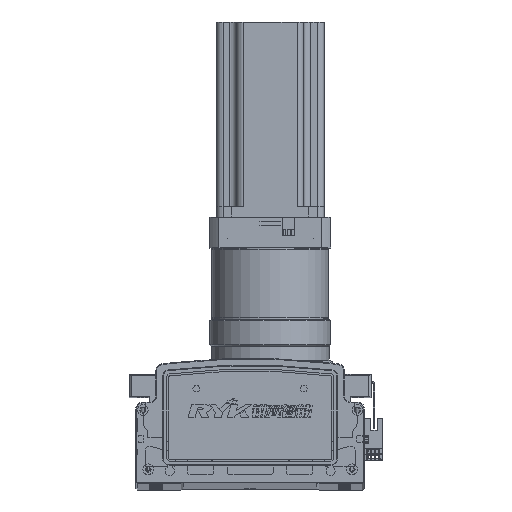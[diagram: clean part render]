
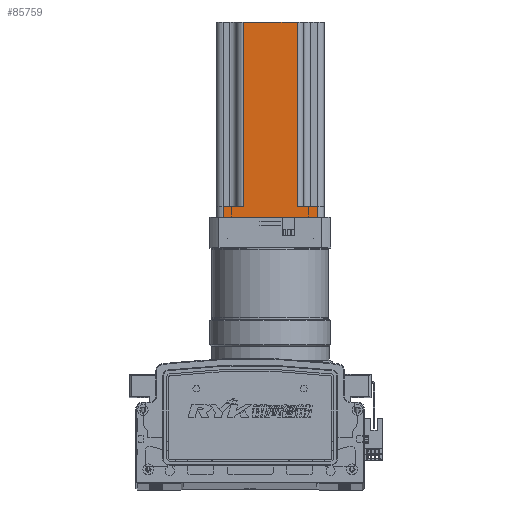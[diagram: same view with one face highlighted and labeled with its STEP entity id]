
A CAD part, top view. The second image highlights one B-rep face of the part: STEP entity #85759.
In plain terms, the highlighted planar face has unit normal (0, 0, 1) as drawn and (0, -1, 0) by its records, which use the part's own axes.
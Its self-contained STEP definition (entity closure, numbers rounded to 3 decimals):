
#29565 = ORIENTED_EDGE ( 'NONE', *, *, #99531, .T. ) ;
#29629 = ORIENTED_EDGE ( 'NONE', *, *, #99628, .T. ) ;
#29650 = ORIENTED_EDGE ( 'NONE', *, *, #99537, .F. ) ;
#29655 = ORIENTED_EDGE ( 'NONE', *, *, #99633, .T. ) ;
#29671 = ORIENTED_EDGE ( 'NONE', *, *, #99632, .F. ) ;
#29711 = ORIENTED_EDGE ( 'NONE', *, *, #99608, .T. ) ;
#29779 = ORIENTED_EDGE ( 'NONE', *, *, #99588, .T. ) ;
#29848 = ORIENTED_EDGE ( 'NONE', *, *, #99607, .F. ) ;
#32933 = PLANE ( 'NONE',  #51582 ) ;
#32942 = DIRECTION ( 'NONE',  ( -1., 0., 0. ) ) ;
#32960 = CARTESIAN_POINT ( 'NONE',  ( -87.587, -40.37, 145. ) ) ;
#32977 = DIRECTION ( 'NONE',  ( 0., 1., 0. ) ) ;
#37294 = VECTOR ( 'NONE', #101060, 1000. ) ;
#37302 = VECTOR ( 'NONE', #101052, 1000. ) ;
#37379 = LINE ( 'NONE', #101030, #37302 ) ;
#37418 = LINE ( 'NONE', #101056, #37294 ) ;
#37443 = VECTOR ( 'NONE', #101436, 1000. ) ;
#37481 = LINE ( 'NONE', #101544, #37485 ) ;
#37485 = VECTOR ( 'NONE', #101538, 1000. ) ;
#37494 = LINE ( 'NONE', #101467, #37443 ) ;
#37500 = LINE ( 'NONE', #101522, #37595 ) ;
#37595 = VECTOR ( 'NONE', #101553, 1000. ) ;
#37637 = LINE ( 'NONE', #101639, #37647 ) ;
#37647 = VECTOR ( 'NONE', #101641, 1000. ) ;
#37685 = LINE ( 'NONE', #101634, #37688 ) ;
#37688 = VECTOR ( 'NONE', #101654, 1000. ) ;
#37713 = LINE ( 'NONE', #101625, #37716 ) ;
#37716 = VECTOR ( 'NONE', #101629, 1000. ) ;
#43456 = FACE_OUTER_BOUND ( 'NONE', #68570, .T. ) ;
#51582 = AXIS2_PLACEMENT_3D ( 'NONE', #32960, #32977, #32942 ) ;
#56514 = CARTESIAN_POINT ( 'NONE',  ( -12.587, -40.37, 0. ) ) ;
#56555 = CARTESIAN_POINT ( 'NONE',  ( -82.587, -40.37, 0. ) ) ;
#56563 = CARTESIAN_POINT ( 'NONE',  ( -82.587, -40.37, 8. ) ) ;
#56574 = CARTESIAN_POINT ( 'NONE',  ( -12.587, -40.37, 8. ) ) ;
#56641 = CARTESIAN_POINT ( 'NONE',  ( -27.587, -40.37, 8. ) ) ;
#56660 = CARTESIAN_POINT ( 'NONE',  ( -27.587, -40.37, 145. ) ) ;
#56664 = CARTESIAN_POINT ( 'NONE',  ( -67.587, -40.37, 8. ) ) ;
#56672 = CARTESIAN_POINT ( 'NONE',  ( -67.587, -40.37, 145. ) ) ;
#68570 = EDGE_LOOP ( 'NONE', ( #29848, #29655, #29629, #29711, #29650, #29565, #29671, #29779 ) ) ;
#70301 = VERTEX_POINT ( 'NONE', #56555 ) ;
#70302 = VERTEX_POINT ( 'NONE', #56514 ) ;
#70335 = VERTEX_POINT ( 'NONE', #56574 ) ;
#70350 = VERTEX_POINT ( 'NONE', #56563 ) ;
#70380 = VERTEX_POINT ( 'NONE', #56641 ) ;
#70386 = VERTEX_POINT ( 'NONE', #56672 ) ;
#70402 = VERTEX_POINT ( 'NONE', #56664 ) ;
#70413 = VERTEX_POINT ( 'NONE', #56660 ) ;
#85759 = ADVANCED_FACE ( 'NONE', ( #43456 ), #32933, .F. ) ;
#99531 = EDGE_CURVE ( 'NONE', #70380, #70413, #37379, .T. ) ;
#99537 = EDGE_CURVE ( 'NONE', #70380, #70335, #37418, .T. ) ;
#99588 = EDGE_CURVE ( 'NONE', #70386, #70402, #37494, .T. ) ;
#99607 = EDGE_CURVE ( 'NONE', #70350, #70402, #37500, .T. ) ;
#99608 = EDGE_CURVE ( 'NONE', #70302, #70335, #37481, .T. ) ;
#99628 = EDGE_CURVE ( 'NONE', #70301, #70302, #37713, .T. ) ;
#99632 = EDGE_CURVE ( 'NONE', #70386, #70413, #37637, .T. ) ;
#99633 = EDGE_CURVE ( 'NONE', #70350, #70301, #37685, .T. ) ;
#101030 = CARTESIAN_POINT ( 'NONE',  ( -27.587, -40.37, 145. ) ) ;
#101052 = DIRECTION ( 'NONE',  ( 0., 0., 1. ) ) ;
#101056 = CARTESIAN_POINT ( 'NONE',  ( -7.587, -40.37, 8. ) ) ;
#101060 = DIRECTION ( 'NONE',  ( 1., 0., 0. ) ) ;
#101436 = DIRECTION ( 'NONE',  ( 0., 0., -1. ) ) ;
#101467 = CARTESIAN_POINT ( 'NONE',  ( -67.587, -40.37, 145. ) ) ;
#101522 = CARTESIAN_POINT ( 'NONE',  ( -87.587, -40.37, 8. ) ) ;
#101538 = DIRECTION ( 'NONE',  ( 0., 0., 1. ) ) ;
#101544 = CARTESIAN_POINT ( 'NONE',  ( -12.587, -40.37, 145. ) ) ;
#101553 = DIRECTION ( 'NONE',  ( 1., 0., 0. ) ) ;
#101625 = CARTESIAN_POINT ( 'NONE',  ( -87.587, -40.37, 0. ) ) ;
#101629 = DIRECTION ( 'NONE',  ( 1., 0., 0. ) ) ;
#101634 = CARTESIAN_POINT ( 'NONE',  ( -82.587, -40.37, 145. ) ) ;
#101639 = CARTESIAN_POINT ( 'NONE',  ( -87.587, -40.37, 145. ) ) ;
#101641 = DIRECTION ( 'NONE',  ( 1., 0., 0. ) ) ;
#101654 = DIRECTION ( 'NONE',  ( 0., 0., -1. ) ) ;
